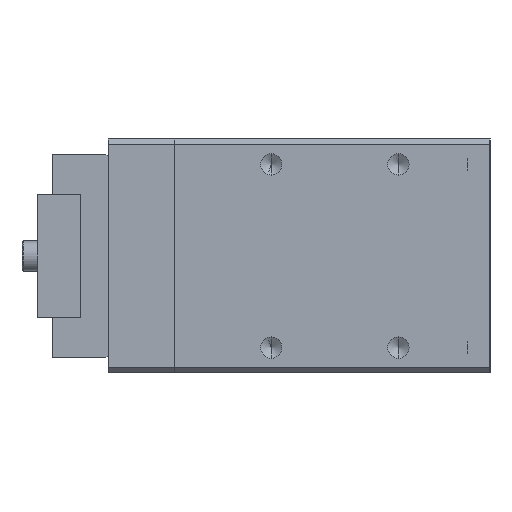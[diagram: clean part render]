
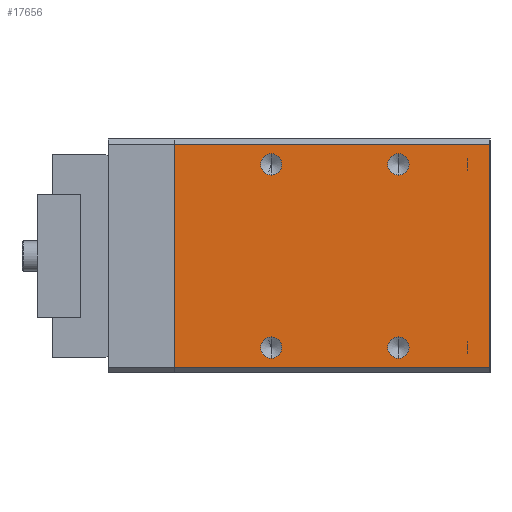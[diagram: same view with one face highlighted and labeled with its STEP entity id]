
A CAD part, left-side view. The second image highlights one B-rep face of the part: STEP entity #17656.
In plain terms, the highlighted planar face has unit normal (-1, 0, 0).
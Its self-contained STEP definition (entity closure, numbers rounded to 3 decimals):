
#4212 = CARTESIAN_POINT ( 'NONE',  ( -30., 57., 15.9 ) ) ;
#4268 = DIRECTION ( 'NONE',  ( 0., 0., 1. ) ) ;
#4269 = DIRECTION ( 'NONE',  ( -1., 0., 0. ) ) ;
#4270 = CARTESIAN_POINT ( 'NONE',  ( -30., 57., 18. ) ) ;
#4271 = AXIS2_PLACEMENT_3D ( 'NONE', #4270, #4269, #4268 ) ;
#4272 = CIRCLE ( 'NONE', #4271, 2.1 ) ;
#4334 = DIRECTION ( 'NONE',  ( 0., 0., 1. ) ) ;
#4335 = DIRECTION ( 'NONE',  ( -1., 0., 0. ) ) ;
#4336 = CARTESIAN_POINT ( 'NONE',  ( -30., 32., 18. ) ) ;
#4337 = AXIS2_PLACEMENT_3D ( 'NONE', #4336, #4335, #4334 ) ;
#4338 = CIRCLE ( 'NONE', #4337, 2.1 ) ;
#4344 = CARTESIAN_POINT ( 'NONE',  ( -30., 32., 20.1 ) ) ;
#4350 = CARTESIAN_POINT ( 'NONE',  ( -30., 57., 20.1 ) ) ;
#4437 = CARTESIAN_POINT ( 'NONE',  ( -30., 32., 15.9 ) ) ;
#4526 = CARTESIAN_POINT ( 'NONE',  ( -30., 32., -20.1 ) ) ;
#4574 = CARTESIAN_POINT ( 'NONE',  ( -30., 32., -15.9 ) ) ;
#4575 = DIRECTION ( 'NONE',  ( 0., 0., 1. ) ) ;
#4576 = DIRECTION ( 'NONE',  ( -1., 0., 0. ) ) ;
#4577 = CARTESIAN_POINT ( 'NONE',  ( -30., 32., -18. ) ) ;
#4578 = AXIS2_PLACEMENT_3D ( 'NONE', #4577, #4576, #4575 ) ;
#4579 = CIRCLE ( 'NONE', #4578, 2.1 ) ;
#4611 = CARTESIAN_POINT ( 'NONE',  ( -30., 57., -15.9 ) ) ;
#4612 = DIRECTION ( 'NONE',  ( 0., 0., 1. ) ) ;
#4613 = DIRECTION ( 'NONE',  ( -1., 0., 0. ) ) ;
#4614 = CARTESIAN_POINT ( 'NONE',  ( -30., 57., -18. ) ) ;
#4615 = AXIS2_PLACEMENT_3D ( 'NONE', #4614, #4613, #4612 ) ;
#4616 = CIRCLE ( 'NONE', #4615, 2.1 ) ;
#4617 = CARTESIAN_POINT ( 'NONE',  ( -30., 57., -20.1 ) ) ;
#9256 = DIRECTION ( 'NONE',  ( 0., 0., -1. ) ) ;
#9257 = VECTOR ( 'NONE', #9256, 1000. ) ;
#9258 = CARTESIAN_POINT ( 'NONE',  ( -30., 75., 23. ) ) ;
#9259 = LINE ( 'NONE', #9258, #9257 ) ;
#9261 = DIRECTION ( 'NONE',  ( 0., 0., 1. ) ) ;
#9262 = DIRECTION ( 'NONE',  ( -1., 0., 0. ) ) ;
#9263 = CARTESIAN_POINT ( 'NONE',  ( -30., 32., 18. ) ) ;
#9264 = AXIS2_PLACEMENT_3D ( 'NONE', #9263, #9262, #9261 ) ;
#9265 = CIRCLE ( 'NONE', #9264, 2.1 ) ;
#9373 = DIRECTION ( 'NONE',  ( 0., 0., -1. ) ) ;
#9374 = DIRECTION ( 'NONE',  ( 1., 0., 0. ) ) ;
#9375 = CARTESIAN_POINT ( 'NONE',  ( -30., 13., 23. ) ) ;
#9376 = AXIS2_PLACEMENT_3D ( 'NONE', #9375, #9374, #9373 ) ;
#9377 = PLANE ( 'NONE',  #9376 ) ;
#9392 = FACE_BOUND ( 'NONE', #17697, .T. ) ;
#9393 = FACE_BOUND ( 'NONE', #17652, .T. ) ;
#9394 = FACE_BOUND ( 'NONE', #17688, .T. ) ;
#9395 = FACE_OUTER_BOUND ( 'NONE', #17631, .T. ) ;
#9396 = FACE_BOUND ( 'NONE', #17628, .T. ) ;
#9479 = DIRECTION ( 'NONE',  ( 0., 0., 1. ) ) ;
#9480 = DIRECTION ( 'NONE',  ( -1., 0., 0. ) ) ;
#9481 = CARTESIAN_POINT ( 'NONE',  ( -30., 57., -18. ) ) ;
#9482 = AXIS2_PLACEMENT_3D ( 'NONE', #9481, #9480, #9479 ) ;
#9483 = CIRCLE ( 'NONE', #9482, 2.1 ) ;
#9489 = DIRECTION ( 'NONE',  ( 0., 0., 1. ) ) ;
#9490 = DIRECTION ( 'NONE',  ( -1., 0., 0. ) ) ;
#9491 = CARTESIAN_POINT ( 'NONE',  ( -30., 57., 18. ) ) ;
#9492 = AXIS2_PLACEMENT_3D ( 'NONE', #9491, #9490, #9489 ) ;
#9493 = CIRCLE ( 'NONE', #9492, 2.1 ) ;
#9495 = CARTESIAN_POINT ( 'NONE',  ( -30., 75., 22. ) ) ;
#9496 = CARTESIAN_POINT ( 'NONE',  ( -30., 75., -22. ) ) ;
#9497 = DIRECTION ( 'NONE',  ( 0., -1., 0. ) ) ;
#9498 = VECTOR ( 'NONE', #9497, 1000. ) ;
#9499 = CARTESIAN_POINT ( 'NONE',  ( -30., 13., -22. ) ) ;
#9500 = LINE ( 'NONE', #9499, #9498 ) ;
#9501 = CARTESIAN_POINT ( 'NONE',  ( -30., 13., -22. ) ) ;
#9502 = DIRECTION ( 'NONE',  ( 0., 1., 0. ) ) ;
#9503 = VECTOR ( 'NONE', #9502, 1000. ) ;
#9504 = CARTESIAN_POINT ( 'NONE',  ( -30., 13., 22. ) ) ;
#9505 = LINE ( 'NONE', #9504, #9503 ) ;
#9506 = CARTESIAN_POINT ( 'NONE',  ( -30., 13., 22. ) ) ;
#9507 = DIRECTION ( 'NONE',  ( 0., 0., -1. ) ) ;
#9508 = VECTOR ( 'NONE', #9507, 1000. ) ;
#9509 = CARTESIAN_POINT ( 'NONE',  ( -30., 13., 23. ) ) ;
#9510 = LINE ( 'NONE', #9509, #9508 ) ;
#9564 = DIRECTION ( 'NONE',  ( 0., 0., 1. ) ) ;
#9565 = DIRECTION ( 'NONE',  ( -1., 0., 0. ) ) ;
#9566 = CARTESIAN_POINT ( 'NONE',  ( -30., 32., -18. ) ) ;
#9567 = AXIS2_PLACEMENT_3D ( 'NONE', #9566, #9565, #9564 ) ;
#9568 = CIRCLE ( 'NONE', #9567, 2.1 ) ;
#11988 = VERTEX_POINT ( 'NONE', #4212 ) ;
#11990 = EDGE_CURVE ( 'NONE', #11988, #12027, #4272, .T. ) ;
#12027 = VERTEX_POINT ( 'NONE', #4350 ) ;
#12029 = VERTEX_POINT ( 'NONE', #4344 ) ;
#12033 = EDGE_CURVE ( 'NONE', #12045, #12029, #4338, .T. ) ;
#12045 = VERTEX_POINT ( 'NONE', #4437 ) ;
#12068 = VERTEX_POINT ( 'NONE', #4526 ) ;
#12086 = EDGE_CURVE ( 'NONE', #12068, #12087, #4579, .T. ) ;
#12087 = VERTEX_POINT ( 'NONE', #4574 ) ;
#12099 = VERTEX_POINT ( 'NONE', #4617 ) ;
#12101 = EDGE_CURVE ( 'NONE', #12099, #12102, #4616, .T. ) ;
#12102 = VERTEX_POINT ( 'NONE', #4611 ) ;
#17626 = EDGE_CURVE ( 'NONE', #12029, #12045, #9265, .T. ) ;
#17627 = EDGE_CURVE ( 'NONE', #17700, #17699, #9259, .T. ) ;
#17628 = EDGE_LOOP ( 'NONE', ( #17634, #17629 ) ) ;
#17629 = ORIENTED_EDGE ( 'NONE', *, *, #12033, .F. ) ;
#17631 = EDGE_LOOP ( 'NONE', ( #17632, #17698, #17692, #17686 ) ) ;
#17632 = ORIENTED_EDGE ( 'NONE', *, *, #17627, .T. ) ;
#17634 = ORIENTED_EDGE ( 'NONE', *, *, #17626, .F. ) ;
#17652 = EDGE_LOOP ( 'NONE', ( #17725, #17726 ) ) ;
#17656 = ADVANCED_FACE ( 'NONE', ( #9396, #9395, #9394, #9393, #9392 ), #9377, .F. ) ;
#17671 = EDGE_CURVE ( 'NONE', #12102, #12099, #9483, .T. ) ;
#17677 = ORIENTED_EDGE ( 'NONE', *, *, #12101, .F. ) ;
#17682 = ORIENTED_EDGE ( 'NONE', *, *, #17671, .F. ) ;
#17684 = EDGE_CURVE ( 'NONE', #17685, #17689, #9510, .T. ) ;
#17685 = VERTEX_POINT ( 'NONE', #9506 ) ;
#17686 = ORIENTED_EDGE ( 'NONE', *, *, #17687, .T. ) ;
#17687 = EDGE_CURVE ( 'NONE', #17685, #17700, #9505, .T. ) ;
#17688 = EDGE_LOOP ( 'NONE', ( #17682, #17677 ) ) ;
#17689 = VERTEX_POINT ( 'NONE', #9501 ) ;
#17692 = ORIENTED_EDGE ( 'NONE', *, *, #17684, .F. ) ;
#17693 = EDGE_CURVE ( 'NONE', #17699, #17689, #9500, .T. ) ;
#17695 = ORIENTED_EDGE ( 'NONE', *, *, #11990, .F. ) ;
#17697 = EDGE_LOOP ( 'NONE', ( #17701, #17695 ) ) ;
#17698 = ORIENTED_EDGE ( 'NONE', *, *, #17693, .T. ) ;
#17699 = VERTEX_POINT ( 'NONE', #9496 ) ;
#17700 = VERTEX_POINT ( 'NONE', #9495 ) ;
#17701 = ORIENTED_EDGE ( 'NONE', *, *, #17703, .F. ) ;
#17703 = EDGE_CURVE ( 'NONE', #12027, #11988, #9493, .T. ) ;
#17718 = EDGE_CURVE ( 'NONE', #12087, #12068, #9568, .T. ) ;
#17725 = ORIENTED_EDGE ( 'NONE', *, *, #17718, .F. ) ;
#17726 = ORIENTED_EDGE ( 'NONE', *, *, #12086, .F. ) ;
